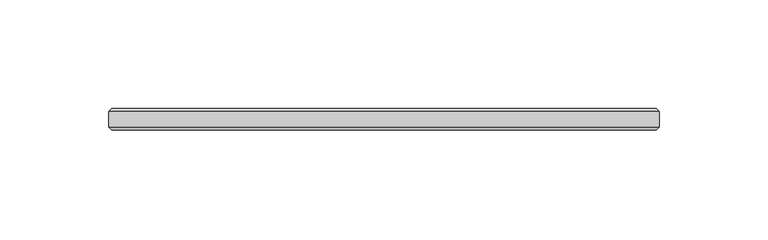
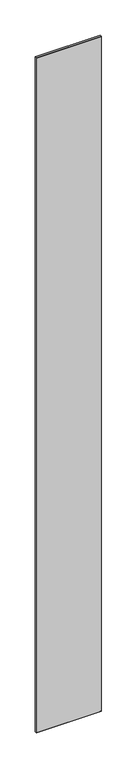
"""IFC4 building model written with IfcOpenShell, lengths in millimetres: plate geometry, 11-AMG-1-Панель одинарный витраж 10-12 : Центр Толщина 10mm."""

from ifc_helpers import new_model, si_unit, origin, place, context, project, spatial, faceted_brep, source, transform, mapped, element, save


def plate_3d63cd64(model_context):
    return source(origin(), model_context, "Body", "Brep", [
        faceted_brep([(124.25, -3.4961653, 2777.0), (124.25, 3.4961653, 2777.0), (-129.25, 3.4961653, 2777.0), (-129.25, -3.4961653, 2777.0), (124.25, 3.4961653, 5.0), (124.25, -3.4961653, 5.0), (-129.25, -3.4961653, 5.0), (-129.25, 3.4961653, 5.0), (-127.7461653, 5.0, 2775.4961653), (122.7461653, 5.0, 2775.4961653), (122.7461653, 5.0, 6.4960578), (-127.7461653, 5.0, 6.4960578), (122.7461653, -5.0, 2775.4961653), (-127.7461653, -5.0, 2775.4961653), (-127.7461653, -5.0, 6.5038347), (122.7461653, -5.0, 6.5038347)], [[[0, 1, 2, 3]], [[4, 5, 6, 7]], [[8, 9, 10, 11]], [[3, 2, 7, 6]], [[12, 13, 14, 15]], [[1, 0, 5, 4]], [[1, 4, 10, 9]], [[5, 0, 12, 15]], [[7, 2, 8, 11]], [[3, 6, 14, 13]], [[0, 3, 13, 12]], [[2, 1, 9, 8]], [[6, 5, 15, 14]], [[4, 7, 11, 10]]]),
    ])


if __name__ == "__main__":
    model = new_model("IFC4")
    model_context = context("Model", 3, world=origin())
    ifc_project = project(units=[si_unit("LENGTHUNIT", "METRE", prefix="MILLI")], contexts=[model_context])
    site = spatial("IfcSite", under=ifc_project)
    building = spatial("IfcBuilding", under=site)
    placement = place(None, origin())
    plate_shape = plate_3d63cd64(model_context)
    element("IfcPlate", 1, ObjectType="11-AMG-1-Панель одинарный витраж 10-12 : Центр Толщина 10mm", at=placement, inside=building, context=model_context, shape_type="MappedRepresentation", body=[
        mapped(plate_shape, transform((0.0, 0.0, 0.0), x_axis=(1.0, 0.0, 0.0), y_axis=(0.0, 1.0, 0.0), z_axis=(0.0, 0.0, 1.0))),
    ])
    save(model, "model.ifc")
